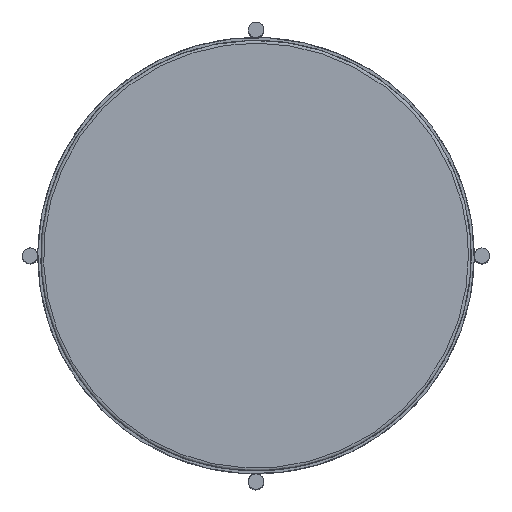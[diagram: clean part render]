
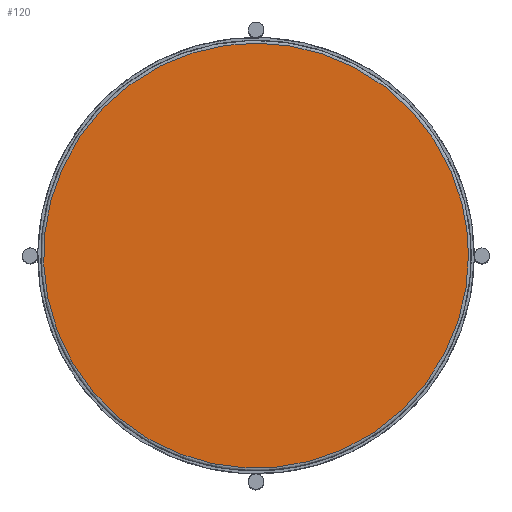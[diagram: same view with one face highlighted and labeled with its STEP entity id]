
A CAD part, top view. The second image highlights one B-rep face of the part: STEP entity #120.
In plain terms, the highlighted planar face has unit normal (0, 0, 1).
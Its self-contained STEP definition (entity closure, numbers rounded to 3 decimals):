
#120=ADVANCED_FACE('',(#197),#1074,.T.);
#197=FACE_OUTER_BOUND('',#274,.T.);
#274=EDGE_LOOP('',(#374));
#374=ORIENTED_EDGE('',*,*,#711,.F.);
#711=EDGE_CURVE('',#974,#974,#880,.T.);
#880=(
BOUNDED_CURVE()
B_SPLINE_CURVE(2,(#1303,#1304,#1305,#1306,#1307,#1308,#1309,#1310,#1311),
 .UNSPECIFIED.,.T.,.F.)
B_SPLINE_CURVE_WITH_KNOTS((3,2,2,2,3),(0.,344.004,688.009,
1032.013,1376.017),.UNSPECIFIED.)
CURVE()
GEOMETRIC_REPRESENTATION_ITEM()
RATIONAL_B_SPLINE_CURVE((1.,0.707,1.,0.707,1.,0.707,
1.,0.707,1.))
REPRESENTATION_ITEM('')
);
#974=VERTEX_POINT('',#1287);
#1074=PLANE('',#1165);
#1165=AXIS2_PLACEMENT_3D('',#1229,#1188,$);
#1188=DIRECTION('',(0.,0.,1.));
#1229=CARTESIAN_POINT('',(-277.5,277.5,400.));
#1287=CARTESIAN_POINT('',(219.,0.,400.));
#1303=CARTESIAN_POINT('',(219.,0.,400.));
#1304=CARTESIAN_POINT('',(219.,-219.,400.));
#1305=CARTESIAN_POINT('',(0.,-219.,400.));
#1306=CARTESIAN_POINT('',(-219.,-219.,400.));
#1307=CARTESIAN_POINT('',(-219.,0.,400.));
#1308=CARTESIAN_POINT('',(-219.,219.,400.));
#1309=CARTESIAN_POINT('',(0.,219.,400.));
#1310=CARTESIAN_POINT('',(219.,219.,400.));
#1311=CARTESIAN_POINT('',(219.,0.,400.));
